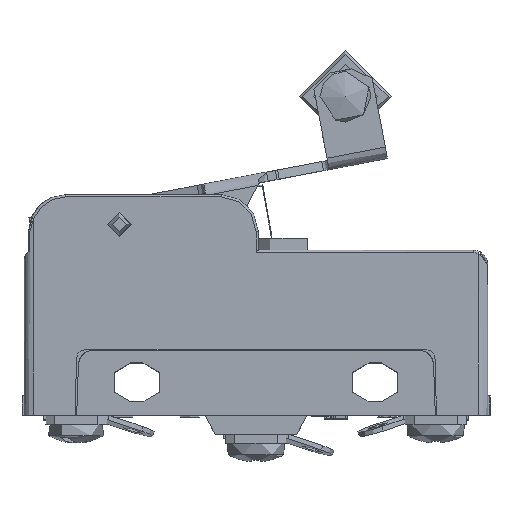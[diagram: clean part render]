
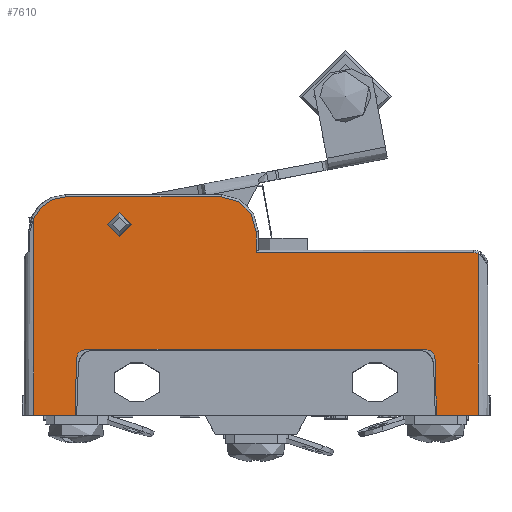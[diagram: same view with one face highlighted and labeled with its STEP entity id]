
A CAD part, top view. The second image highlights one B-rep face of the part: STEP entity #7610.
In plain terms, the highlighted planar face has unit normal (0, 0, 1).
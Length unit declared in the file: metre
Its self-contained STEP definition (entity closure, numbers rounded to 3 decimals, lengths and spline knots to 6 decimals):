
#6832=CARTESIAN_POINT('',(-0.011767,0.013867,0.05815));
#6833=DIRECTION('',(0.,0.,1.));
#6834=DIRECTION('',(1.,0.,0.));
#6835=AXIS2_PLACEMENT_3D('',#6832,#6833,#6834);
#6836=CIRCLE('',#6835,0.0013);
#6837=CARTESIAN_POINT('',(-0.013067,0.013867,0.05815));
#6838=VERTEX_POINT('',#6837);
#6839=EDGE_CURVE('',#6838,#6838,#6836,.T.);
#6866=CARTESIAN_POINT('',(0.022323,-0.000607,0.05815));
#6867=VERTEX_POINT('',#6866);
#6870=CARTESIAN_POINT('',(0.021323,-0.000633,0.05815));
#6871=DIRECTION('',(0.,0.,1.));
#6872=DIRECTION('',(1.,0.,0.));
#6873=AXIS2_PLACEMENT_3D('',#6870,#6871,#6872);
#6874=CIRCLE('',#6873,0.001);
#6875=CARTESIAN_POINT('',(0.021323,0.000367,0.05815));
#6876=VERTEX_POINT('',#6875);
#6877=EDGE_CURVE('',#6867,#6876,#6874,.T.);
#6911=CARTESIAN_POINT('',(-0.015357,0.000367,0.05815));
#6912=DIRECTION('',(-1.,0.,0.));
#6913=VECTOR('',#6912,1.);
#6914=LINE('',#6911,#6913);
#6915=CARTESIAN_POINT('',(-0.015357,0.000367,0.05815));
#6916=VERTEX_POINT('',#6915);
#6917=EDGE_CURVE('',#6876,#6916,#6914,.T.);
#6950=CARTESIAN_POINT('',(-0.015357,-0.000633,0.05815));
#6951=DIRECTION('',(0.,0.,1.));
#6952=DIRECTION('',(1.,0.,0.));
#6953=AXIS2_PLACEMENT_3D('',#6950,#6951,#6952);
#6954=CIRCLE('',#6953,0.001);
#6955=CARTESIAN_POINT('',(-0.016356,-0.000607,0.05815));
#6956=VERTEX_POINT('',#6955);
#6957=EDGE_CURVE('',#6916,#6956,#6954,.T.);
#6991=CARTESIAN_POINT('',(-0.016517,-0.006733,0.05815));
#6992=DIRECTION('',(-0.026,-1.,0.));
#6993=VECTOR('',#6992,1.);
#6994=LINE('',#6991,#6993);
#6995=CARTESIAN_POINT('',(-0.016517,-0.006733,0.05815));
#6996=VERTEX_POINT('',#6995);
#6997=EDGE_CURVE('',#6956,#6996,#6994,.T.);
#7273=CARTESIAN_POINT('',(-0.020992,-0.006733,0.05815));
#7274=VERTEX_POINT('',#7273);
#7277=CARTESIAN_POINT('',(-0.020992,0.011067,0.05815));
#7278=DIRECTION('',(0.,-1.,0.));
#7279=VECTOR('',#7278,1.);
#7280=LINE('',#7277,#7279);
#7281=CARTESIAN_POINT('',(-0.020992,0.014524,0.05815));
#7282=VERTEX_POINT('',#7281);
#7283=EDGE_CURVE('',#7282,#7274,#7280,.T.);
#7355=CARTESIAN_POINT('',(-0.017537,0.016817,0.05815));
#7356=VERTEX_POINT('',#7355);
#7377=CARTESIAN_POINT('',(-0.017537,0.013067,0.05815));
#7378=DIRECTION('',(0.,0.,-1.));
#7379=DIRECTION('',(-1.,0.,0.));
#7380=AXIS2_PLACEMENT_3D('',#7377,#7378,#7379);
#7381=CIRCLE('',#7380,0.00375);
#7382=EDGE_CURVE('',#7282,#7356,#7381,.T.);
#7405=CARTESIAN_POINT('',(0.026508,0.010817,0.05815));
#7406=VERTEX_POINT('',#7405);
#7424=CARTESIAN_POINT('',(0.003009,0.010817,0.05815));
#7425=VERTEX_POINT('',#7424);
#7428=CARTESIAN_POINT('',(0.003259,0.010817,0.05815));
#7429=DIRECTION('',(1.,0.,0.));
#7430=VECTOR('',#7429,1.);
#7431=LINE('',#7428,#7430);
#7432=EDGE_CURVE('',#7425,#7406,#7431,.T.);
#7464=CARTESIAN_POINT('',(0.003009,0.013067,0.05815));
#7465=VERTEX_POINT('',#7464);
#7468=CARTESIAN_POINT('',(0.003009,0.013067,0.05815));
#7469=DIRECTION('',(0.,1.,0.));
#7470=VECTOR('',#7469,1.);
#7471=LINE('',#7468,#7470);
#7472=EDGE_CURVE('',#7425,#7465,#7471,.T.);
#7505=CARTESIAN_POINT('',(-0.000741,0.016817,0.05815));
#7506=VERTEX_POINT('',#7505);
#7509=CARTESIAN_POINT('',(-0.000741,0.013067,0.05815));
#7510=DIRECTION('',(0.,0.,-1.));
#7511=DIRECTION('',(-1.,0.,0.));
#7512=AXIS2_PLACEMENT_3D('',#7509,#7510,#7511);
#7513=CIRCLE('',#7512,0.00375);
#7514=EDGE_CURVE('',#7506,#7465,#7513,.T.);
#7540=CARTESIAN_POINT('',(-0.017537,0.016817,0.05815));
#7541=DIRECTION('',(-1.,0.,0.));
#7542=VECTOR('',#7541,1.);
#7543=LINE('',#7540,#7542);
#7544=EDGE_CURVE('',#7506,#7356,#7543,.T.);
#7557=CARTESIAN_POINT('',(-0.021992,0.011067,0.05815));
#7558=DIRECTION('',(0.,0.,-1.));
#7559=DIRECTION('',(-1.,0.,0.));
#7560=AXIS2_PLACEMENT_3D('',#7557,#7558,#7559);
#7561=PLANE('',#7560);
#7562=ORIENTED_EDGE('',*,*,#7544,.T.);
#7563=ORIENTED_EDGE('',*,*,#7382,.F.);
#7564=ORIENTED_EDGE('',*,*,#7283,.T.);
#7565=CARTESIAN_POINT('',(-0.021992,-0.006733,0.05815));
#7566=DIRECTION('',(1.,0.,0.));
#7567=VECTOR('',#7566,1.);
#7568=LINE('',#7565,#7567);
#7569=EDGE_CURVE('',#7274,#6996,#7568,.T.);
#7570=ORIENTED_EDGE('',*,*,#7569,.T.);
#7571=ORIENTED_EDGE('',*,*,#6997,.F.);
#7572=ORIENTED_EDGE('',*,*,#6957,.F.);
#7573=ORIENTED_EDGE('',*,*,#6917,.F.);
#7574=ORIENTED_EDGE('',*,*,#6877,.F.);
#7575=CARTESIAN_POINT('',(0.022483,-0.006733,0.05815));
#7576=DIRECTION('',(-0.026,1.,0.));
#7577=VECTOR('',#7576,1.);
#7578=LINE('',#7575,#7577);
#7579=CARTESIAN_POINT('',(0.022483,-0.006733,0.05815));
#7580=VERTEX_POINT('',#7579);
#7581=EDGE_CURVE('',#7580,#6867,#7578,.T.);
#7582=ORIENTED_EDGE('',*,*,#7581,.F.);
#7583=CARTESIAN_POINT('',(0.027008,-0.006733,0.05815));
#7584=VERTEX_POINT('',#7583);
#7585=EDGE_CURVE('',#7580,#7584,#7568,.T.);
#7586=ORIENTED_EDGE('',*,*,#7585,.T.);
#7587=CARTESIAN_POINT('',(0.027008,0.011067,0.05815));
#7588=DIRECTION('',(0.,-1.,0.));
#7589=VECTOR('',#7588,1.);
#7590=LINE('',#7587,#7589);
#7591=CARTESIAN_POINT('',(0.027008,0.010713,0.05815));
#7592=VERTEX_POINT('',#7591);
#7593=EDGE_CURVE('',#7592,#7584,#7590,.T.);
#7594=ORIENTED_EDGE('',*,*,#7593,.F.);
#7595=CARTESIAN_POINT('',(0.026508,0.009567,0.05815));
#7596=DIRECTION('',(0.,0.,-1.));
#7597=DIRECTION('',(-1.,0.,0.));
#7598=AXIS2_PLACEMENT_3D('',#7595,#7596,#7597);
#7599=CIRCLE('',#7598,0.00125);
#7600=EDGE_CURVE('',#7406,#7592,#7599,.T.);
#7601=ORIENTED_EDGE('',*,*,#7600,.F.);
#7602=ORIENTED_EDGE('',*,*,#7432,.F.);
#7603=ORIENTED_EDGE('',*,*,#7472,.T.);
#7604=ORIENTED_EDGE('',*,*,#7514,.F.);
#7605=EDGE_LOOP('',(#7562,#7563,#7564,#7570,#7571,#7572,#7573,#7574,#7582,#7586,#7594,#7601,#7602,#7603,#7604));
#7606=FACE_BOUND('',#7605,.T.);
#7607=ORIENTED_EDGE('',*,*,#6839,.F.);
#7608=EDGE_LOOP('',(#7607));
#7609=FACE_BOUND('',#7608,.T.);
#7610=ADVANCED_FACE('',(#7606,#7609),#7561,.F.);
